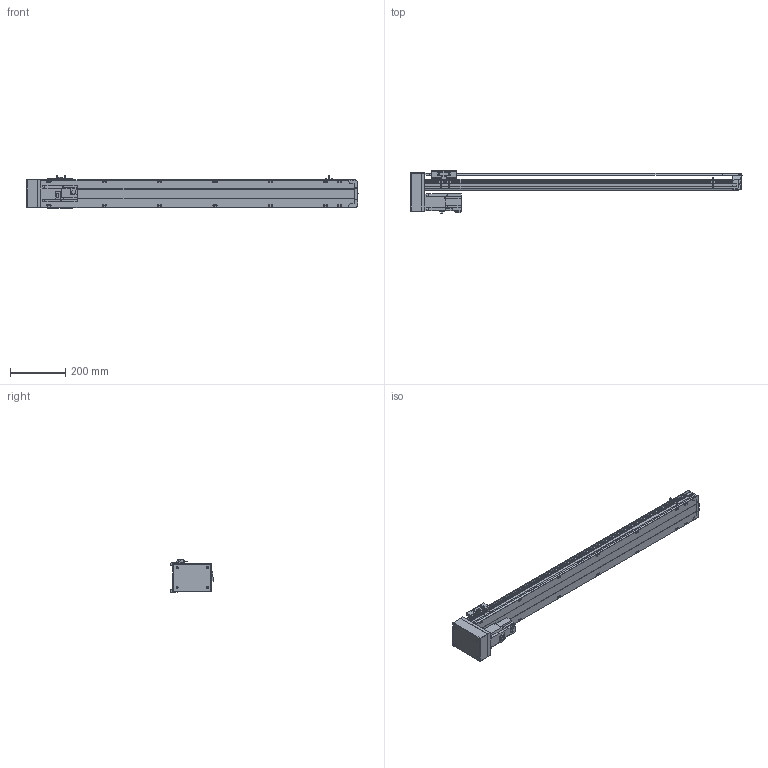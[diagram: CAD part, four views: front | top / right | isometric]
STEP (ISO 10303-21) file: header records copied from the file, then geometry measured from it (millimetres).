
FILE_DESCRIPTION( ( 'STEP AP214' ), '1' );
FILE_NAME( 'x:/temp/worker_27/temp/exporttempdir_6708_78_VAiUQ/format_0/PSS120-L10-S950-BM-T40-C1-N(0).stp', '2022-06-06T00:27:09', ( 'License CC BY-ND 4.0' ), ( 'CADENAS' ), ' ', 'PARTsolutions', ' ' );
FILE_SCHEMA( ( 'AUTOMOTIVE_DESIGN { 1 0 10303 214 1 1 1 1 }' ) );
Length unit declared in the file: millimetre
Products named in the file (8): PSS120-L10-S950-BM-T40-C1-N(0); _PSS120-S950-BM-C1-N_body; _PSS120-N_Q; _PSS120-BM-C1-N_sl; _PSS120-N_sensor; _PSS120BM-N_h; _T40-p1; _PSS120-S950-BM-N_S
Assembly tree (9 placements, depth 2):
  PSS120-L10-S950-BM-T40-C1-N(0)
    _PSS120-S950-BM-C1-N_body
    _PSS120-N_Q
    _PSS120-BM-C1-N_sl
    _PSS120-N_sensor  x3
    _PSS120BM-N_h
    _T40-p1
    _PSS120-S950-BM-N_S
Bounding box: 1199.35 x 151.8 x 117.7 mm (x, y, z)
Volume: 4723242 mm3; surface area: 780566.6 mm2
Topology: 9 solids, 9 shells, 857 faces, 2301 edges, 1526 vertices
Faces by surface type: plane 586, cylinder 245, cone 22, sphere 4
Full cylindrical faces by diameter (mm): 2.8 x3, 4 x4, 4.134 x18, 4.4 x2, 4.5 x4, 4.6 x3, 5 x6, 5.5 x21, 7 x2, 7.4 x4, 8 x4, 8.5 x18, 14 x1, 28 x1, 32 x2, 50 x1
Entity records: 29545 total; most frequent: CARTESIAN_POINT 4628, DIRECTION 3853, ORIENTED_EDGE 3754, EDGE_CURVE 1877, LINE 1315, VECTOR 1315, VERTEX_POINT 1310, AXIS2_PLACEMENT_3D 1269
